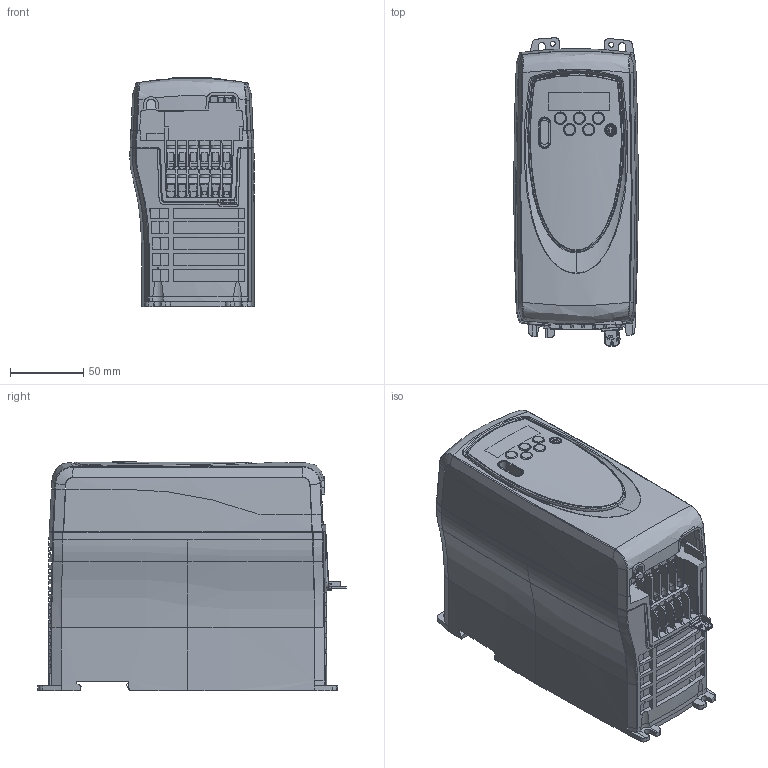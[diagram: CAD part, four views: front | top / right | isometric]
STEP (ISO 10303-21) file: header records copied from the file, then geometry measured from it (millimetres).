
FILE_DESCRIPTION((''),'2;1');
FILE_NAME('PK-SEQ-SK-B-ALL-NOSTICK','2006-12-19T',('summne01'),(''),'PRO/ENGINEER BY PARAMETRIC TECHNOLOGY CORPORATION, 2006320','PRO/ENGINEER BY PARAMETRIC TECHNOLOGY CORPORATION, 2006320','');
FILE_SCHEMA(('CONFIG_CONTROL_DESIGN'));
Length unit declared in the file: millimetre
Products named in the file (1): PK-SEQ-SK-B-ALL-NOSTICK
Bounding box: 85 x 210.93 x 156.62 mm (x, y, z)
Surface area: 159569.6 mm2 (no closed solid volume)
Topology: 0 solids, 136 shells, 808 faces, 3467 edges, 2722 vertices
Faces by surface type: plane 410, cylinder 260, bspline 75, cone 53, torus 8, extrusion 2
Entity records: 42707 total; most frequent: CARTESIAN_POINT 16518, ORIENTED_EDGE 4912, DIRECTION 4674, EDGE_CURVE 3467, VERTEX_POINT 2722, VECTOR 2026, LINE 2024, AXIS2_PLACEMENT_3D 1324
